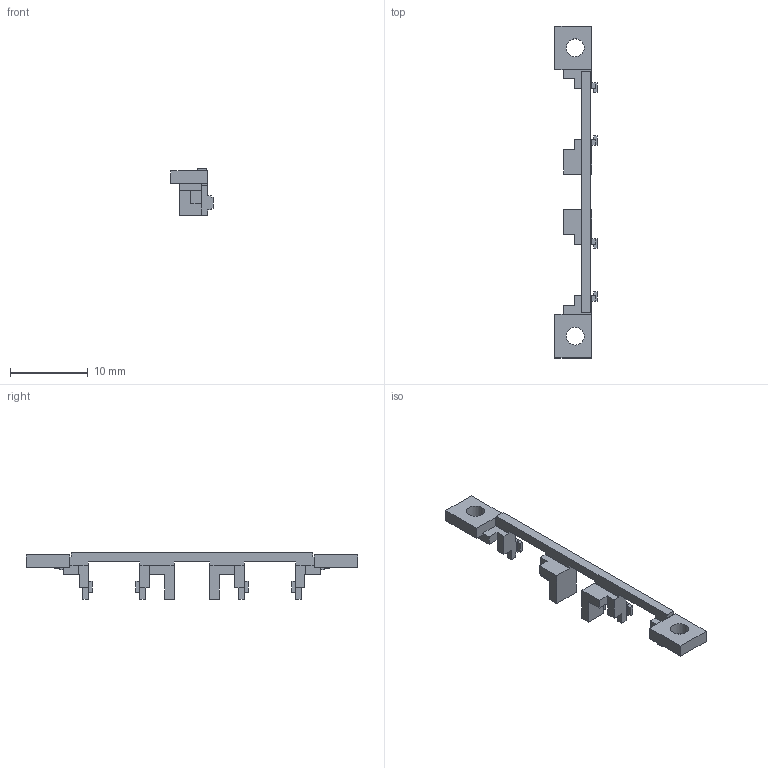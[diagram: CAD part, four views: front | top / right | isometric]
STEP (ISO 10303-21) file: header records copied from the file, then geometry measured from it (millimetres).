
FILE_DESCRIPTION(('Open CASCADE Model'),'2;1');
FILE_NAME('Open CASCADE Shape Model','2026-09-21T11:06:42',('Author'),( 'Open CASCADE'),'Open CASCADE STEP processor 7.7','Open CASCADE 7.7' ,'Unknown');
FILE_SCHEMA(('AUTOMOTIVE_DESIGN { 1 0 10303 214 1 1 1 1 }'));
Length unit declared in the file: millimetre
Products named in the file (1): Open CASCADE STEP translator 7.7 12
Bounding box: 5.4 x 42.6 x 6 mm (x, y, z)
Volume: 219.5 mm3; surface area: 605.3 mm2
Topology: 1 solids, 1 shells, 160 faces, 466 edges, 308 vertices
Faces by surface type: plane 158, cylinder 2
Full cylindrical faces by diameter (mm): 2.3 x2
Entity records: 11016 total; most frequent: CARTESIAN_POINT 2133, DIRECTION 1478, LINE 1148, VECTOR 1148, ORIENTED_EDGE 932, PCURVE 932, DEFINITIONAL_REPRESENTATION 932, EDGE_CURVE 466
